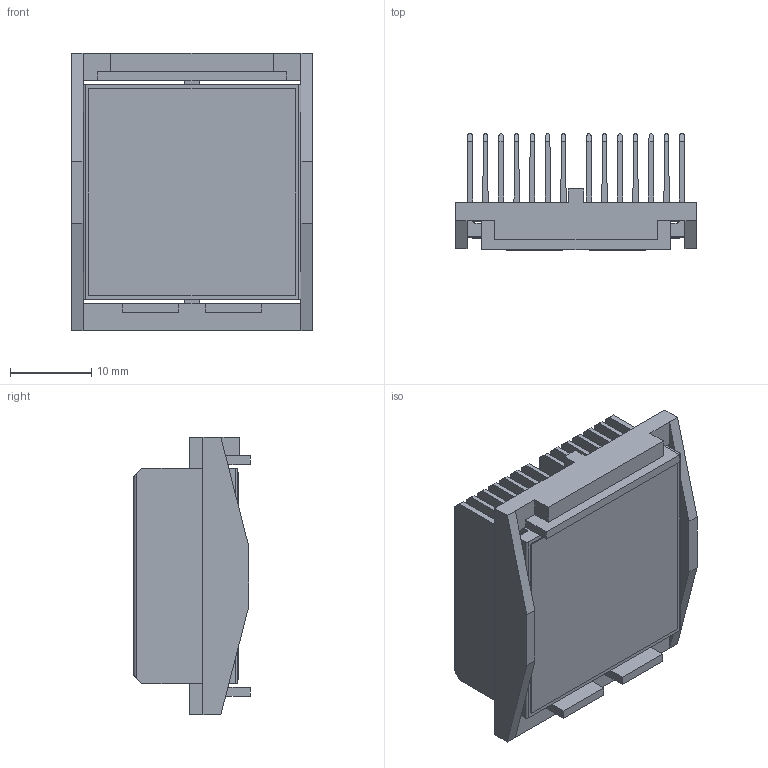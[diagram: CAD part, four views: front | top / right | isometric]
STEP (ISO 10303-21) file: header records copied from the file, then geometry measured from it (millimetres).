
FILE_DESCRIPTION (( 'STEP AP214' ), '1' );
FILE_NAME ('INL27001-13-1.7BU.STEP', '2023-02-21T21:35:09', ( '' ), ( '' ), 'SwSTEP 2.0', 'SolidWorks 2020', '' );
FILE_SCHEMA (( 'AUTOMOTIVE_DESIGN' ));
Length unit declared in the file: millimetre
Products named in the file (1): INL27001-13-1.7BU
Bounding box: 29.6 x 14.3 x 34.1 mm (x, y, z)
Volume: 4981.5 mm3; surface area: 12912.6 mm2
Topology: 3 solids, 3 shells, 168 faces, 488 edges, 324 vertices
Faces by surface type: plane 126, cylinder 42
Entity records: 7380 total; most frequent: CARTESIAN_POINT 1065, ORIENTED_EDGE 976, DIRECTION 854, EDGE_CURVE 488, LINE 404, VECTOR 404, VERTEX_POINT 324, AXIS2_PLACEMENT_3D 225
